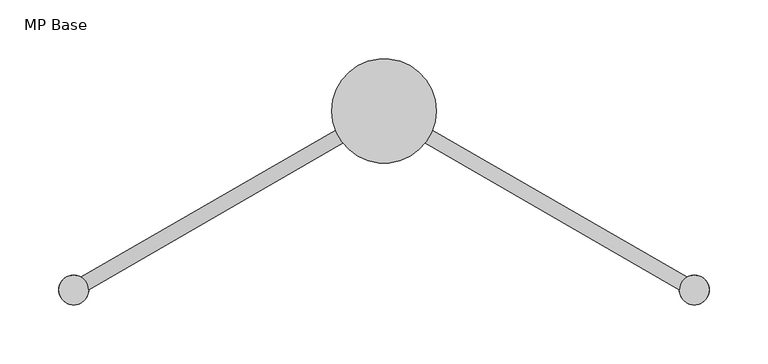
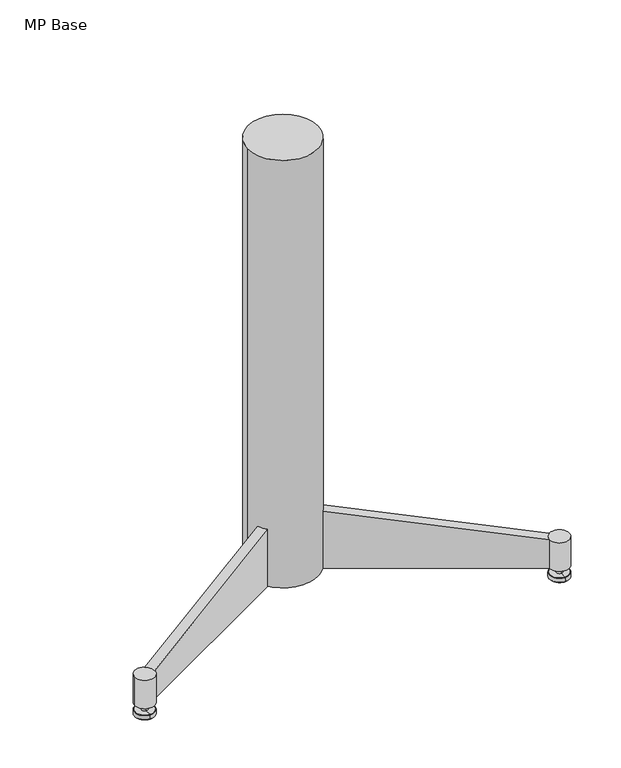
"""IFC4 building model written with IfcOpenShell, lengths in millimetres: furniture geometry, Geiger_GeigerOneCasegoods_LegSupport : MP Base."""

from ifc_helpers import new_model, si_unit, frame, origin, place, context, project, spatial, polyline, circle_curve, ellipse_curve, source, transform, mapped, element, save
from ifc_brep_helpers import plane_surface, cylinder_surface, revolved_surface, advanced_brep


def mp_base_71be33a4(model_context):
    return source(origin(), model_context, "Body", "AdvancedBrep", [
        advanced_brep(
        [(-44.45, 0.0, 590.505), (44.45, 0.0, 590.505), (-44.45, 0.0, 15.505), (44.45, 0.0, 15.505), (41.2756186, -16.4962363, 15.505), (257.6467159, -141.4181475, 15.505), (276.6430177, -152.4474985, 15.505), (251.2430177, -152.4474985, 15.505), (34.926031, -27.494997, 15.505), (-34.926031, -27.494997, 15.505), (-251.2431678, -152.3857542, 15.505), (-276.6430177, -152.4474985, 15.505), (-257.6467159, -141.4181475, 15.505), (-41.2756186, -16.4962363, 15.505), (-41.2756186, -16.4962363, 91.7913956), (-34.926031, -27.494997, 91.7913223), (34.926031, -27.494997, 91.7913223), (41.2756186, -16.4962363, 91.7913956), (-251.2431678, -152.3857542, 53.3476253), (-257.6467159, -141.4181475, 53.3381088), (251.2431678, -152.3857542, 53.3476253), (257.6467159, -141.4181475, 53.3381088), (251.2430177, -152.4474985, 53.605), (276.6430177, -152.4474985, 53.605), (-251.2430177, -152.4474985, 53.605), (-276.6430177, -152.4474985, 53.605)],
        [
            (0, 1, circle_curve(frame((0.0, 0.0, 590.505), z_axis=(0.0, 0.0, 1.0), x_axis=(1.0, 0.0, 0.0)), 44.45)),
            (1, 0, circle_curve(frame((0.0, 0.0, 590.505), z_axis=(0.0, 0.0, 1.0), x_axis=(1.0, 0.0, 0.0)), 44.45)),
            (2, 3, circle_curve(frame((0.0, 0.0, 15.505), z_axis=(0.0, 0.0, -1.0), x_axis=(1.0, 0.0, 0.0)), 44.45)),
            (3, 4, circle_curve(frame((0.0, 0.0, 15.505), z_axis=(0.0, 0.0, -1.0), x_axis=(1.0, 0.0, 0.0)), 44.45)),
            (4, 5),
            (5, 6, circle_curve(frame((263.9430177, -152.4474985, 15.505), z_axis=(0.0, 0.0, -1.0), x_axis=(1.0, 0.0, 0.0)), 12.7)),
            (6, 7, circle_curve(frame((263.9430177, -152.4474985, 15.505), z_axis=(0.0, 0.0, -1.0), x_axis=(1.0, 0.0, 0.0)), 12.7)),
            (7, 8),
            (8, 9, circle_curve(frame((0.0, 0.0, 15.505), z_axis=(0.0, 0.0, -1.0), x_axis=(1.0, 0.0, 0.0)), 44.45)),
            (9, 10),
            (10, 11, circle_curve(frame((-263.9430177, -152.4474985, 15.505), z_axis=(0.0, 0.0, -1.0), x_axis=(-1.0, 0.0, 0.0)), 12.7)),
            (11, 12, circle_curve(frame((-263.9430177, -152.4474985, 15.505), z_axis=(0.0, 0.0, -1.0), x_axis=(-1.0, 0.0, 0.0)), 12.7)),
            (12, 13),
            (13, 2, circle_curve(frame((0.0, 0.0, 15.505), z_axis=(0.0, 0.0, -1.0), x_axis=(1.0, 0.0, 0.0)), 44.45)),
            (0, 2),
            (13, 14),
            (14, 15, ellipse_curve(frame((0.0, 0.0, 98.5624585), z_axis=(-0.13173818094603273, -0.07605907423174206, 0.9883623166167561), x_axis=(0.855946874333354, 0.4941811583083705, 0.15211814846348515)), 44.973386, 44.45)),
            (15, 9),
            (8, 16),
            (16, 17, ellipse_curve(frame((0.0, 0.0, 98.5624585), z_axis=(0.1317381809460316, -0.07605907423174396, 0.9883623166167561), x_axis=(-0.8559468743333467, 0.49418115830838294, 0.1521181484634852)), 44.973386, 44.45)),
            (17, 4),
            (3, 1),
            (15, 18),
            (18, 10),
            (12, 19),
            (19, 14),
            (19, 18, ellipse_curve(frame((-263.9430177, -152.4474985, 51.6501189), z_axis=(0.13173818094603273, 0.07605907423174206, -0.9883623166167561), x_axis=(-0.855946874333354, -0.4941811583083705, -0.15211814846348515)), 12.8495389, 12.7)),
            (7, 20),
            (20, 16),
            (17, 21),
            (21, 5),
            (20, 21, ellipse_curve(frame((263.9430177, -152.4474985, 51.6501189), z_axis=(-0.1317381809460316, 0.07605907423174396, -0.9883623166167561), x_axis=(0.8559468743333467, -0.49418115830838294, -0.1521181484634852)), 12.8495389, 12.7)),
            (22, 23, circle_curve(frame((263.9430177, -152.4474985, 53.605), z_axis=(0.0, 0.0, 1.0), x_axis=(1.0, 0.0, 0.0)), 12.7)),
            (23, 22, circle_curve(frame((263.9430177, -152.4474985, 53.605), z_axis=(0.0, 0.0, 1.0), x_axis=(1.0, 0.0, 0.0)), 12.7)),
            (24, 25, circle_curve(frame((-263.9430177, -152.4474985, 53.605), z_axis=(0.0, 0.0, 1.0), x_axis=(-1.0, 0.0, 0.0)), 12.7)),
            (25, 24, circle_curve(frame((-263.9430177, -152.4474985, 53.605), z_axis=(0.0, 0.0, 1.0), x_axis=(-1.0, 0.0, 0.0)), 12.7)),
            (23, 6),
            (20, 22),
            (25, 11),
            (18, 24),
        ],
        [
            plane_surface(frame((44.45, 0.0, 590.505), z_axis=(0.0, 0.0, 1.0), x_axis=(0.0, 1.0, 0.0))),
            plane_surface(frame((44.45, 0.0, 15.505), z_axis=(0.0, 0.0, -1.0), x_axis=(0.0, -1.0, 0.0))),
            cylinder_surface(frame((0.0, 0.0, 15.505), z_axis=(0.0, 0.0, 1.0), x_axis=(1.0, 0.0, 0.0)), 44.45),
            plane_surface(frame((-249.3791368, -151.3095554, 53.6788993), z_axis=(0.5000000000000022, -0.8660254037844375, 0.0), x_axis=(-0.8559468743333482, -0.4941811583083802, -0.15211814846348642))),
            plane_surface(frame((-255.7291368, -140.3110327, 53.6788993), z_axis=(-0.5000000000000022, 0.8660254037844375, 0.0), x_axis=(0.8559468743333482, 0.4941811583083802, 0.15211814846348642))),
            plane_surface(frame((-31.7477875, -25.6600373, 92.3561571), z_axis=(-0.13173818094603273, -0.07605907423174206, 0.9883623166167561), x_axis=(-0.4999999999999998, 0.8660254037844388, 0.0))),
            plane_surface(frame((31.7477875, -25.6600373, 15.505), z_axis=(-0.5000000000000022, -0.8660254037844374, 0.0), x_axis=(1.959412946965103e-12, -1.131267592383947e-12, -1.0))),
            plane_surface(frame((38.0977875, -14.6615147, 15.505), z_axis=(0.5000000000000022, 0.8660254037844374, 0.0), x_axis=(-1.959412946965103e-12, 1.131267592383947e-12, 1.0))),
            plane_surface(frame((252.5956653, -153.166619, 53.1072606), z_axis=(0.1317381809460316, -0.07605907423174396, 0.9883623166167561), x_axis=(0.5000000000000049, 0.8660254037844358, 0.0))),
            plane_surface(frame((276.6430177, -152.4474985, 53.605), z_axis=(0.0, 0.0, 1.0), x_axis=(0.0, 1.0, 0.0))),
            cylinder_surface(frame((263.9430177, -152.4474985, 53.605), z_axis=(0.0, 0.0, -1.0), x_axis=(1.0, 0.0, 0.0)), 12.7),
            cylinder_surface(frame((-263.9430177, -152.4474985, 15.505), z_axis=(0.0, 0.0, -1.0), x_axis=(-1.0, 0.0, 0.0)), 12.7),
        ],
        [
            (0, [[1, 2]]),
            (1, [[3, 4, 5, 6, 7, 8, 9, 10, 11, 12, 13, 14]]),
            (2, [[-1, 15, -14, 16, 17, 18, -9, 19, 20, 21, -4, 22]]),
            (2, [[-2, -22, -3, -15]]),
            (3, [[-18, 23, 24, -10]]),
            (4, [[-16, -13, 25, 26]]),
            (5, [[-17, -26, 27, -23]]),
            (6, [[-19, -8, 28, 29]]),
            (7, [[-21, 30, 31, -5]]),
            (8, [[-20, -29, 32, -30]]),
            (9, [[33, 34]]),
            (9, [[35, 36]]),
            (10, [[-34, 37, -6, -31, -32, 38]]),
            (10, [[-33, -38, -28, -7, -37]]),
            (11, [[-36, 39, -11, -24, 40]]),
            (11, [[-35, -40, -27, -25, -12, -39]]),
        ],
    ),
        advanced_brep(
        [(263.9430177, -148.5248326, 6.35), (263.9430177, -156.3701645, 6.35), (263.9430177, -156.3701645, 15.505), (263.9430177, -148.5248326, 15.505), (263.9430177, -152.4474985, 15.505), (263.9430177, -152.4474985, 0.0), (263.9430177, -164.6003682, 0.0), (263.9430177, -140.2946289, 0.0), (263.9430177, -165.1620921, 0.5617239), (263.9430177, -139.732905, 0.5617239), (263.9430177, -165.1620921, 5.7882761), (263.9430177, -139.732905, 5.7882761), (263.9430177, -164.6003682, 6.35), (263.9430177, -140.2946289, 6.35)],
        [
            (0, 1, circle_curve(frame((263.9430177, -152.4474985, 6.35), z_axis=(0.0, 0.0, 1.0), x_axis=(0.0, -1.0, 0.0)), 3.922666)),
            (1, 2),
            (2, 3, circle_curve(frame((263.9430177, -152.4474985, 15.505), z_axis=(0.0, 0.0, -1.0), x_axis=(0.0, -1.0, 0.0)), 3.922666)),
            (3, 0),
            (1, 0, circle_curve(frame((263.9430177, -152.4474985, 6.35), z_axis=(0.0, 0.0, 1.0), x_axis=(0.0, -1.0, 0.0)), 3.922666)),
            (3, 2, circle_curve(frame((263.9430177, -152.4474985, 15.505), z_axis=(0.0, 0.0, -1.0), x_axis=(0.0, -1.0, 0.0)), 3.922666)),
            (2, 4),
            (4, 3),
            (5, 6),
            (6, 7, circle_curve(frame((263.9430177, -152.4474985, 0.0), z_axis=(0.0, 0.0, -1.0), x_axis=(0.0, -1.0, 0.0)), 12.1528697)),
            (7, 5),
            (7, 6, circle_curve(frame((263.9430177, -152.4474985, 0.0), z_axis=(0.0, 0.0, -1.0), x_axis=(0.0, -1.0, 0.0)), 12.1528697)),
            (6, 8),
            (8, 9, circle_curve(frame((263.9430177, -152.4474985, 0.5617239), z_axis=(0.0, 0.0, -1.0), x_axis=(0.0, -1.0, 0.0)), 12.7145936)),
            (9, 7),
            (9, 8, circle_curve(frame((263.9430177, -152.4474985, 0.5617239), z_axis=(0.0, 0.0, -1.0), x_axis=(0.0, -1.0, 0.0)), 12.7145936)),
            (8, 10),
            (10, 11, circle_curve(frame((263.9430177, -152.4474985, 5.7882761), z_axis=(0.0, 0.0, -1.0), x_axis=(0.0, -1.0, 0.0)), 12.7145936)),
            (11, 9),
            (11, 10, circle_curve(frame((263.9430177, -152.4474985, 5.7882761), z_axis=(0.0, 0.0, -1.0), x_axis=(0.0, -1.0, 0.0)), 12.7145936)),
            (10, 12),
            (12, 13, circle_curve(frame((263.9430177, -152.4474985, 6.35), z_axis=(0.0, 0.0, -1.0), x_axis=(0.0, -1.0, 0.0)), 12.1528697)),
            (13, 11),
            (13, 12, circle_curve(frame((263.9430177, -152.4474985, 6.35), z_axis=(0.0, 0.0, -1.0), x_axis=(0.0, -1.0, 0.0)), 12.1528697)),
            (12, 1),
            (0, 13),
        ],
        [
            cylinder_surface(frame((263.9430177, -152.4474985, 15.505), z_axis=(0.0, 0.0, -1.0), x_axis=(0.0, -1.0, 0.0)), 3.922666),
            plane_surface(frame((263.9430177, -152.4474985, 15.505), z_axis=(0.0, 0.0, 1.0), x_axis=(0.0, -1.0, 0.0))),
            plane_surface(frame((263.9430177, -152.4474985, 0.0), z_axis=(0.0, 0.0, -1.0), x_axis=(0.0, -1.0, 0.0))),
            revolved_surface(polyline([(263.9430177, -165.1620921, 0.5617239), (263.9430177, -164.6003682, 0.0)]), (263.9430177, -152.4474985, 15.505), (0.0, 0.0, -1.0)),
            cylinder_surface(frame((263.9430177, -152.4474985, 15.505), z_axis=(0.0, 0.0, -1.0), x_axis=(0.0, -1.0, 0.0)), 12.7145936),
            revolved_surface(polyline([(263.9430177, -164.6003682, 6.35), (263.9430177, -165.1620921, 5.7882761)]), (263.9430177, -152.4474985, 15.505), (0.0, 0.0, -1.0)),
            plane_surface(frame((263.9430177, -152.4474985, 6.35), z_axis=(0.0, 0.0, 1.0), x_axis=(0.0, -1.0, 0.0))),
        ],
        [
            (0, [[1, 2, 3, 4]]),
            (0, [[5, -4, 6, -2]]),
            (1, [[-3, 7, 8]]),
            (1, [[-6, -8, -7]]),
            (2, [[9, 10, 11]]),
            (2, [[-11, 12, -9]]),
            (3, [[-10, 13, 14, 15]]),
            (3, [[-12, -15, 16, -13]]),
            (4, [[-14, 17, 18, 19]]),
            (4, [[-16, -19, 20, -17]]),
            (5, [[-18, 21, 22, 23]]),
            (5, [[-20, -23, 24, -21]]),
            (6, [[-22, 25, -1, 26]]),
            (6, [[-24, -26, -5, -25]]),
        ],
    ),
        advanced_brep(
        [(-263.9430177, -148.5248326, 15.505), (-263.9430177, -156.3701645, 15.505), (-263.9430177, -156.3701645, 6.35), (-263.9430177, -148.5248326, 6.35), (-263.9430177, -152.4474985, 15.505), (-263.9430177, -140.2946289, 0.0), (-263.9430177, -164.6003682, 0.0), (-263.9430177, -152.4474985, 0.0), (-263.9430177, -139.732905, 0.5617239), (-263.9430177, -165.1620921, 0.5617239), (-263.9430177, -139.732905, 5.7882761), (-263.9430177, -165.1620921, 5.7882761), (-263.9430177, -140.2946289, 6.35), (-263.9430177, -164.6003682, 6.35)],
        [
            (0, 1, circle_curve(frame((-263.9430177, -152.4474985, 15.505), z_axis=(0.0, 0.0, -1.0), x_axis=(0.0, -1.0, 0.0)), 3.922666)),
            (1, 2),
            (2, 3, circle_curve(frame((-263.9430177, -152.4474985, 6.35), z_axis=(0.0, 0.0, 1.0), x_axis=(0.0, -1.0, 0.0)), 3.922666)),
            (3, 0),
            (1, 0, circle_curve(frame((-263.9430177, -152.4474985, 15.505), z_axis=(0.0, 0.0, -1.0), x_axis=(0.0, -1.0, 0.0)), 3.922666)),
            (3, 2, circle_curve(frame((-263.9430177, -152.4474985, 6.35), z_axis=(0.0, 0.0, 1.0), x_axis=(0.0, -1.0, 0.0)), 3.922666)),
            (4, 1),
            (0, 4),
            (5, 6, circle_curve(frame((-263.9430177, -152.4474985, 0.0), z_axis=(0.0, 0.0, -1.0), x_axis=(0.0, -1.0, 0.0)), 12.1528697)),
            (6, 7),
            (7, 5),
            (6, 5, circle_curve(frame((-263.9430177, -152.4474985, 0.0), z_axis=(0.0, 0.0, -1.0), x_axis=(0.0, -1.0, 0.0)), 12.1528697)),
            (8, 9, circle_curve(frame((-263.9430177, -152.4474985, 0.5617239), z_axis=(0.0, 0.0, -1.0), x_axis=(0.0, -1.0, 0.0)), 12.7145936)),
            (9, 6),
            (5, 8),
            (9, 8, circle_curve(frame((-263.9430177, -152.4474985, 0.5617239), z_axis=(0.0, 0.0, -1.0), x_axis=(0.0, -1.0, 0.0)), 12.7145936)),
            (10, 11, circle_curve(frame((-263.9430177, -152.4474985, 5.7882761), z_axis=(0.0, 0.0, -1.0), x_axis=(0.0, -1.0, 0.0)), 12.7145936)),
            (11, 9),
            (8, 10),
            (11, 10, circle_curve(frame((-263.9430177, -152.4474985, 5.7882761), z_axis=(0.0, 0.0, -1.0), x_axis=(0.0, -1.0, 0.0)), 12.7145936)),
            (12, 13, circle_curve(frame((-263.9430177, -152.4474985, 6.35), z_axis=(0.0, 0.0, -1.0), x_axis=(0.0, -1.0, 0.0)), 12.1528697)),
            (13, 11),
            (10, 12),
            (13, 12, circle_curve(frame((-263.9430177, -152.4474985, 6.35), z_axis=(0.0, 0.0, -1.0), x_axis=(0.0, -1.0, 0.0)), 12.1528697)),
            (2, 13),
            (12, 3),
        ],
        [
            cylinder_surface(frame((-263.9430177, -152.4474985, 15.505), z_axis=(0.0, 0.0, 1.0), x_axis=(0.0, -1.0, 0.0)), 3.922666),
            plane_surface(frame((-263.9430177, -152.4474985, 15.505), z_axis=(0.0, 0.0, 1.0), x_axis=(0.0, -1.0, 0.0))),
            plane_surface(frame((-263.9430177, -152.4474985, 0.0), z_axis=(0.0, 0.0, -1.0), x_axis=(0.0, -1.0, 0.0))),
            revolved_surface(polyline([(-263.9430177, -164.6003682, 0.0), (-263.9430177, -165.1620921, 0.5617239)]), (-263.9430177, -152.4474985, 15.505), (0.0, 0.0, 1.0)),
            cylinder_surface(frame((-263.9430177, -152.4474985, 15.505), z_axis=(0.0, 0.0, 1.0), x_axis=(0.0, -1.0, 0.0)), 12.7145936),
            revolved_surface(polyline([(-263.9430177, -165.1620921, 5.7882761), (-263.9430177, -164.6003682, 6.35)]), (-263.9430177, -152.4474985, 15.505), (0.0, 0.0, 1.0)),
            plane_surface(frame((-263.9430177, -152.4474985, 6.35), z_axis=(0.0, 0.0, 1.0), x_axis=(0.0, -1.0, 0.0))),
        ],
        [
            (0, [[1, 2, 3, 4]]),
            (0, [[5, -4, 6, -2]]),
            (1, [[7, -1, 8]]),
            (1, [[-8, -5, -7]]),
            (2, [[9, 10, 11]]),
            (2, [[12, -11, -10]]),
            (3, [[13, 14, -9, 15]]),
            (3, [[16, -15, -12, -14]]),
            (4, [[17, 18, -13, 19]]),
            (4, [[20, -19, -16, -18]]),
            (5, [[21, 22, -17, 23]]),
            (5, [[24, -23, -20, -22]]),
            (6, [[-3, 25, -21, 26]]),
            (6, [[-6, -26, -24, -25]]),
        ],
    ),
    ])


if __name__ == "__main__":
    model = new_model("IFC4")
    model_context = context("Model", 3, world=origin())
    ifc_project = project(units=[si_unit("LENGTHUNIT", "METRE", prefix="MILLI")], contexts=[model_context])
    site = spatial("IfcSite", under=ifc_project)
    building = spatial("IfcBuilding", under=site)
    placement = place(None, origin())
    mp_base_shape = mp_base_71be33a4(model_context)
    element("IfcFurniture", 1, ObjectType="Geiger_GeigerOneCasegoods_LegSupport : MP Base", at=placement, inside=building, context=model_context, shape_type="MappedRepresentation", body=[
        mapped(mp_base_shape, transform((0.0, 0.0, 0.0), x_axis=(1.0, 0.0, 0.0), y_axis=(0.0, 1.0, 0.0), z_axis=(0.0, 0.0, 1.0))),
    ])
    save(model, "model.ifc")
